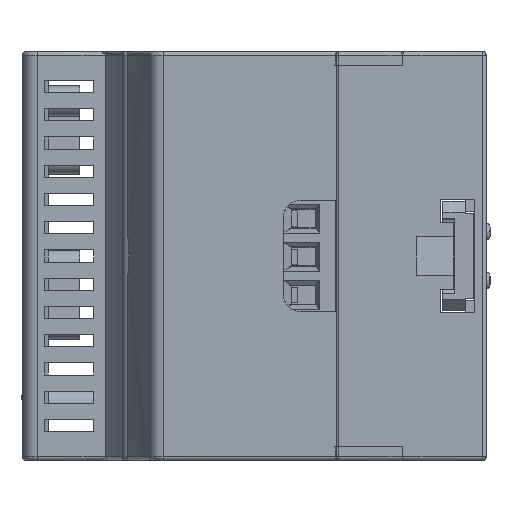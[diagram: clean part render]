
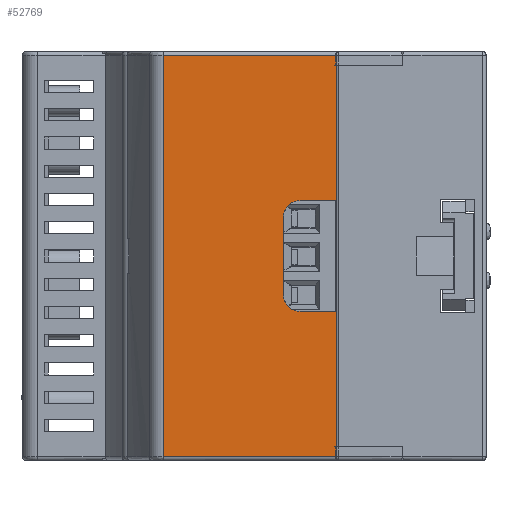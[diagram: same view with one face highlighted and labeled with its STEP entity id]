
A CAD part, left-side view. The second image highlights one B-rep face of the part: STEP entity #52769.
In plain terms, the highlighted planar face has unit normal (-1, 0.018, 0).
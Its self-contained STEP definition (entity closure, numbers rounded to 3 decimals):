
#634 = CARTESIAN_POINT ( 'NONE',  ( -44.766, 18.649, 22.6 ) ) ;
#3092 = VERTEX_POINT ( 'NONE', #60428 ) ;
#3617 = CARTESIAN_POINT ( 'NONE',  ( -44.85, 13.85, 22.6 ) ) ;
#4167 = ORIENTED_EDGE ( 'NONE', *, *, #23915, .F. ) ;
#5624 = EDGE_LOOP ( 'NONE', ( #52064, #22474, #56186, #4167, #18243, #21360, #78383, #90792, #35205, #55564 ) ) ;
#6331 = LINE ( 'NONE', #64523, #20674 ) ;
#8790 = VERTEX_POINT ( 'NONE', #94243 ) ;
#9273 = EDGE_CURVE ( 'NONE', #84434, #106156, #95306, .T. ) ;
#9843 = VECTOR ( 'NONE', #44665, 1000. ) ;
#10922 = CARTESIAN_POINT ( 'NONE',  ( -44.728, 20.849, 10.3 ) ) ;
#11860 = CARTESIAN_POINT ( 'NONE',  ( -44.85, 13.85, -16.81 ) ) ;
#15532 = LINE ( 'NONE', #54556, #9843 ) ;
#18190 = DIRECTION ( 'NONE',  ( -1., 0.017, 0. ) ) ;
#18243 = ORIENTED_EDGE ( 'NONE', *, *, #25073, .F. ) ;
#20521 = LINE ( 'NONE', #11860, #67625 ) ;
#20674 = VECTOR ( 'NONE', #102367, 1000. ) ;
#21360 = ORIENTED_EDGE ( 'NONE', *, *, #34709, .F. ) ;
#22474 = ORIENTED_EDGE ( 'NONE', *, *, #44830, .F. ) ;
#23915 = EDGE_CURVE ( 'NONE', #3092, #109270, #28715, .T. ) ;
#25073 = EDGE_CURVE ( 'NONE', #46486, #3092, #6331, .T. ) ;
#25635 = VERTEX_POINT ( 'NONE', #3617 ) ;
#28715 = LINE ( 'NONE', #30564, #119217 ) ;
#30564 = CARTESIAN_POINT ( 'NONE',  ( -44.453, 36.571, -16.81 ) ) ;
#31676 = DIRECTION ( 'NONE',  ( 0., 0., -1. ) ) ;
#33925 = VERTEX_POINT ( 'NONE', #78173 ) ;
#34709 = EDGE_CURVE ( 'NONE', #8790, #46486, #41642, .T. ) ;
#35140 = EDGE_CURVE ( 'NONE', #25635, #120786, #77259, .T. ) ;
#35205 = ORIENTED_EDGE ( 'NONE', *, *, #9273, .F. ) ;
#35348 = DIRECTION ( 'NONE',  ( 1., -0.017, 0. ) ) ;
#35447 = AXIS2_PLACEMENT_3D ( 'NONE', #46129, #18190, #82696 ) ;
#37878 = CARTESIAN_POINT ( 'NONE',  ( -44.766, 18.649, 20.4 ) ) ;
#39495 = EDGE_CURVE ( 'NONE', #120786, #84434, #109523, .T. ) ;
#41642 = LINE ( 'NONE', #79399, #116558 ) ;
#44665 = DIRECTION ( 'NONE',  ( -0.017, -1., 0. ) ) ;
#44830 = EDGE_CURVE ( 'NONE', #33925, #25635, #20521, .T. ) ;
#44908 = CARTESIAN_POINT ( 'NONE',  ( -44.766, 18.649, 8.1 ) ) ;
#46129 = CARTESIAN_POINT ( 'NONE',  ( -44.766, 18.649, 10.3 ) ) ;
#46486 = VERTEX_POINT ( 'NONE', #107154 ) ;
#47744 = DIRECTION ( 'NONE',  ( -0.017, -1., 0. ) ) ;
#52064 = ORIENTED_EDGE ( 'NONE', *, *, #35140, .F. ) ;
#52143 = AXIS2_PLACEMENT_3D ( 'NONE', #37878, #85565, #94846 ) ;
#52769 = ADVANCED_FACE ( 'NONE', ( #71847 ), #64356, .F. ) ;
#54556 = CARTESIAN_POINT ( 'NONE',  ( -44.408, 39.156, 41.65 ) ) ;
#55564 = ORIENTED_EDGE ( 'NONE', *, *, #39495, .F. ) ;
#56186 = ORIENTED_EDGE ( 'NONE', *, *, #94054, .F. ) ;
#59210 = VECTOR ( 'NONE', #67327, 1000. ) ;
#60428 = CARTESIAN_POINT ( 'NONE',  ( -44.453, 36.571, -10.95 ) ) ;
#63560 = VERTEX_POINT ( 'NONE', #44908 ) ;
#64356 = PLANE ( 'NONE',  #71393 ) ;
#64523 = CARTESIAN_POINT ( 'NONE',  ( -44.408, 39.156, -10.95 ) ) ;
#65806 = EDGE_CURVE ( 'NONE', #106156, #63560, #106723, .T. ) ;
#67327 = DIRECTION ( 'NONE',  ( 0.017, 1., 0. ) ) ;
#67625 = VECTOR ( 'NONE', #31676, 1000. ) ;
#67723 = DIRECTION ( 'NONE',  ( 0., 0., 1. ) ) ;
#71393 = AXIS2_PLACEMENT_3D ( 'NONE', #119565, #35348, #109058 ) ;
#71847 = FACE_OUTER_BOUND ( 'NONE', #5624, .T. ) ;
#75467 = CARTESIAN_POINT ( 'NONE',  ( -44.728, 20.849, -16.81 ) ) ;
#77259 = LINE ( 'NONE', #78516, #59210 ) ;
#78173 = CARTESIAN_POINT ( 'NONE',  ( -44.85, 13.85, 41.65 ) ) ;
#78383 = ORIENTED_EDGE ( 'NONE', *, *, #99389, .F. ) ;
#78516 = CARTESIAN_POINT ( 'NONE',  ( -44.408, 39.156, 22.6 ) ) ;
#79399 = CARTESIAN_POINT ( 'NONE',  ( -44.85, 13.85, -16.81 ) ) ;
#82696 = DIRECTION ( 'NONE',  ( 0.017, 1., 0. ) ) ;
#84434 = VERTEX_POINT ( 'NONE', #86411 ) ;
#85565 = DIRECTION ( 'NONE',  ( -1., 0.017, 0. ) ) ;
#86411 = CARTESIAN_POINT ( 'NONE',  ( -44.728, 20.849, 20.4 ) ) ;
#86830 = VECTOR ( 'NONE', #47744, 1000. ) ;
#90792 = ORIENTED_EDGE ( 'NONE', *, *, #65806, .F. ) ;
#92422 = LINE ( 'NONE', #97868, #86830 ) ;
#94054 = EDGE_CURVE ( 'NONE', #109270, #33925, #15532, .T. ) ;
#94243 = CARTESIAN_POINT ( 'NONE',  ( -44.85, 13.85, 8.1 ) ) ;
#94846 = DIRECTION ( 'NONE',  ( 0.017, 1., 0. ) ) ;
#95306 = LINE ( 'NONE', #75467, #99375 ) ;
#97868 = CARTESIAN_POINT ( 'NONE',  ( -44.408, 39.156, 8.1 ) ) ;
#99375 = VECTOR ( 'NONE', #113320, 1000. ) ;
#99389 = EDGE_CURVE ( 'NONE', #63560, #8790, #92422, .T. ) ;
#100862 = CARTESIAN_POINT ( 'NONE',  ( -44.453, 36.571, 41.65 ) ) ;
#102367 = DIRECTION ( 'NONE',  ( 0.017, 1., 0. ) ) ;
#106156 = VERTEX_POINT ( 'NONE', #10922 ) ;
#106723 = CIRCLE ( 'NONE', #35447, 2.2 ) ;
#107154 = CARTESIAN_POINT ( 'NONE',  ( -44.85, 13.85, -10.95 ) ) ;
#109058 = DIRECTION ( 'NONE',  ( 0.017, 1., 0. ) ) ;
#109270 = VERTEX_POINT ( 'NONE', #100862 ) ;
#109523 = CIRCLE ( 'NONE', #52143, 2.2 ) ;
#113320 = DIRECTION ( 'NONE',  ( 0., 0., -1. ) ) ;
#116558 = VECTOR ( 'NONE', #117212, 1000. ) ;
#117212 = DIRECTION ( 'NONE',  ( 0., 0., -1. ) ) ;
#119217 = VECTOR ( 'NONE', #67723, 1000. ) ;
#119565 = CARTESIAN_POINT ( 'NONE',  ( -44.408, 39.156, -16.81 ) ) ;
#120786 = VERTEX_POINT ( 'NONE', #634 ) ;
